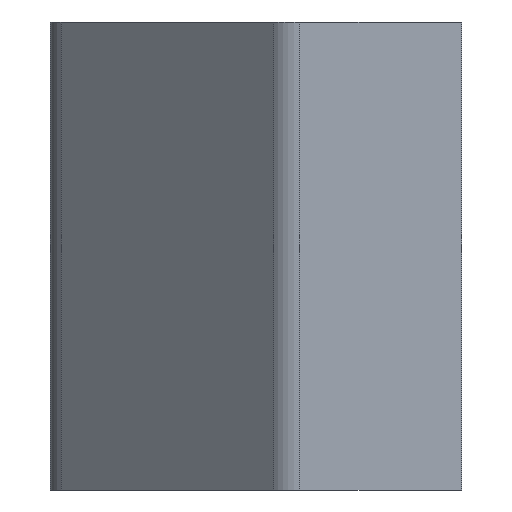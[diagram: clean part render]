
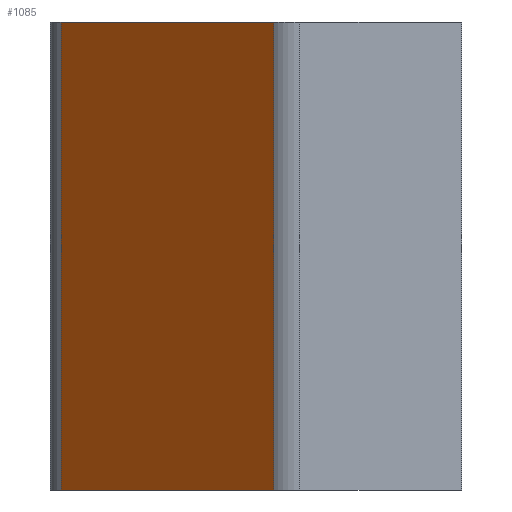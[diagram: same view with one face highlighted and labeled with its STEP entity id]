
A CAD part, left-side view. The second image highlights one B-rep face of the part: STEP entity #1085.
In plain terms, the highlighted planar face has unit normal (-0.707, 0.707, 0).
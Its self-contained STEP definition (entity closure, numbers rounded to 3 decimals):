
#7 = DIRECTION ( 'NONE',  ( -0.707, 0.707, 0. ) ) ;
#34 = EDGE_CURVE ( 'NONE', #208, #937, #249, .T. ) ;
#112 = DIRECTION ( 'NONE',  ( 0.707, 0.707, 0. ) ) ;
#149 = VECTOR ( 'NONE', #487, 1000. ) ;
#208 = VERTEX_POINT ( 'NONE', #876 ) ;
#216 = CARTESIAN_POINT ( 'NONE',  ( 1.523, 26.523, 0. ) ) ;
#249 = LINE ( 'NONE', #674, #691 ) ;
#251 = FACE_OUTER_BOUND ( 'NONE', #483, .T. ) ;
#421 = ORIENTED_EDGE ( 'NONE', *, *, #954, .T. ) ;
#450 = PLANE ( 'NONE',  #610 ) ;
#483 = EDGE_LOOP ( 'NONE', ( #1113, #824, #512, #421 ) ) ;
#487 = DIRECTION ( 'NONE',  ( 0., 0., -1. ) ) ;
#512 = ORIENTED_EDGE ( 'NONE', *, *, #1124, .T. ) ;
#610 = AXIS2_PLACEMENT_3D ( 'NONE', #898, #7, #628 ) ;
#628 = DIRECTION ( 'NONE',  ( -0.707, -0.707, 0. ) ) ;
#636 = VECTOR ( 'NONE', #112, 1000. ) ;
#664 = DIRECTION ( 'NONE',  ( 0.707, 0.707, 0. ) ) ;
#674 = CARTESIAN_POINT ( 'NONE',  ( 1.523, 26.523, 66. ) ) ;
#691 = VECTOR ( 'NONE', #1133, 1000. ) ;
#753 = CARTESIAN_POINT ( 'NONE',  ( 31.477, 56.477, 66. ) ) ;
#804 = CARTESIAN_POINT ( 'NONE',  ( 31.477, 56.477, 0. ) ) ;
#824 = ORIENTED_EDGE ( 'NONE', *, *, #34, .F. ) ;
#838 = VECTOR ( 'NONE', #664, 1000. ) ;
#848 = VERTEX_POINT ( 'NONE', #1023 ) ;
#873 = LINE ( 'NONE', #997, #636 ) ;
#876 = CARTESIAN_POINT ( 'NONE',  ( 1.523, 26.523, 66. ) ) ;
#888 = LINE ( 'NONE', #753, #149 ) ;
#898 = CARTESIAN_POINT ( 'NONE',  ( 0., 25., 66. ) ) ;
#935 = CARTESIAN_POINT ( 'NONE',  ( 0., 25., 0. ) ) ;
#937 = VERTEX_POINT ( 'NONE', #216 ) ;
#954 = EDGE_CURVE ( 'NONE', #848, #1049, #888, .T. ) ;
#965 = EDGE_CURVE ( 'NONE', #937, #1049, #1106, .T. ) ;
#997 = CARTESIAN_POINT ( 'NONE',  ( 0., 25., 66. ) ) ;
#1023 = CARTESIAN_POINT ( 'NONE',  ( 31.477, 56.477, 66. ) ) ;
#1049 = VERTEX_POINT ( 'NONE', #804 ) ;
#1085 = ADVANCED_FACE ( 'NONE', ( #251 ), #450, .T. ) ;
#1106 = LINE ( 'NONE', #935, #838 ) ;
#1113 = ORIENTED_EDGE ( 'NONE', *, *, #965, .F. ) ;
#1124 = EDGE_CURVE ( 'NONE', #208, #848, #873, .T. ) ;
#1133 = DIRECTION ( 'NONE',  ( 0., 0., -1. ) ) ;
